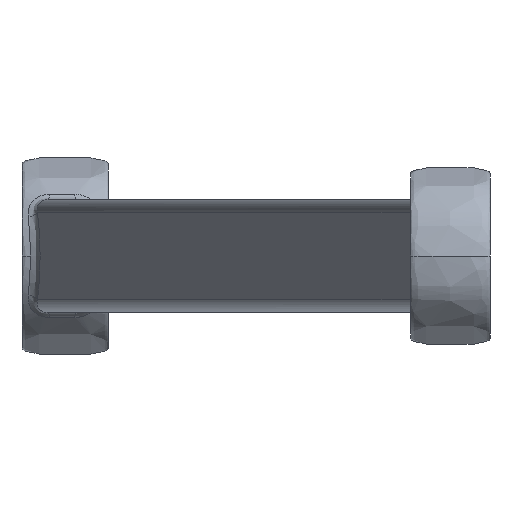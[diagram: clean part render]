
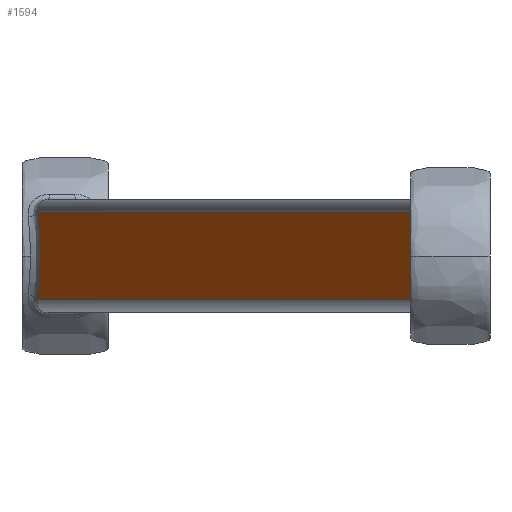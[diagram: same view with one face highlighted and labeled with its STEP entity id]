
A CAD part, left-side view. The second image highlights one B-rep face of the part: STEP entity #1594.
In plain terms, the highlighted planar face has unit normal (-0.259, 0.966, 0).
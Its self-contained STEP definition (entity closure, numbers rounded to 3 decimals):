
#8 = CARTESIAN_POINT ( 'NONE',  ( 28.51, 4.442, 2.26 ) ) ;
#43 = VERTEX_POINT ( 'NONE', #765 ) ;
#55 = CARTESIAN_POINT ( 'NONE',  ( 27.716, 4.229, -5.564 ) ) ;
#188 = CARTESIAN_POINT ( 'NONE',  ( 243.038, 61.925, 1.12 ) ) ;
#261 = ORIENTED_EDGE ( 'NONE', *, *, #516, .T. ) ;
#344 = CARTESIAN_POINT ( 'NONE',  ( 28.657, 4.482, 0.562 ) ) ;
#377 = B_SPLINE_CURVE_WITH_KNOTS ( 'NONE', 3,
 ( #2388, #2176, #1299, #3468, #1855, #502, #1580, #188, #2343, #2057, #3195, #1218, #3138, #2576, #2080, #1788 ),
 .UNSPECIFIED., .F., .F.,
 ( 4, 2, 2, 2, 2, 2, 2, 4 ),
 ( 0., 0.002, 0.003, 0.005, 0.007, 0.009, 0.01, 0.014 ),
 .UNSPECIFIED. ) ;
#411 = DIRECTION ( 'NONE',  ( 0.966, 0.259, 0. ) ) ;
#502 = CARTESIAN_POINT ( 'NONE',  ( 243.254, 61.983, 2.816 ) ) ;
#516 = EDGE_CURVE ( 'NONE', #592, #43, #1526, .T. ) ;
#592 = VERTEX_POINT ( 'NONE', #2833 ) ;
#600 = EDGE_LOOP ( 'NONE', ( #787, #1563, #261, #1178 ) ) ;
#702 = CARTESIAN_POINT ( 'NONE',  ( 27.247, 4.104, 6.6 ) ) ;
#703 = CARTESIAN_POINT ( 'NONE',  ( 244.486, 62.313, -6.6 ) ) ;
#765 = CARTESIAN_POINT ( 'NONE',  ( 244.486, 62.313, 6.6 ) ) ;
#787 = ORIENTED_EDGE ( 'NONE', *, *, #2735, .T. ) ;
#831 = CARTESIAN_POINT ( 'NONE',  ( 28.066, 4.323, 4.491 ) ) ;
#986 = CARTESIAN_POINT ( 'NONE',  ( 271.924, 69.665, -8.55 ) ) ;
#1070 = EDGE_CURVE ( 'NONE', #43, #1702, #377, .T. ) ;
#1100 = CARTESIAN_POINT ( 'NONE',  ( 28.421, 4.418, 2.827 ) ) ;
#1145 = CARTESIAN_POINT ( 'NONE',  ( 28.065, 4.323, -4.493 ) ) ;
#1178 = ORIENTED_EDGE ( 'NONE', *, *, #1070, .T. ) ;
#1218 = CARTESIAN_POINT ( 'NONE',  ( 243.164, 61.959, -2.271 ) ) ;
#1298 = PLANE ( 'NONE',  #2805 ) ;
#1299 = CARTESIAN_POINT ( 'NONE',  ( 244.027, 62.19, 5.559 ) ) ;
#1428 = CARTESIAN_POINT ( 'NONE',  ( 28.628, 4.474, 1.129 ) ) ;
#1526 = LINE ( 'NONE', #2110, #2570 ) ;
#1563 = ORIENTED_EDGE ( 'NONE', *, *, #3207, .T. ) ;
#1578 = DIRECTION ( 'NONE',  ( 0.966, 0.259, 0. ) ) ;
#1580 = CARTESIAN_POINT ( 'NONE',  ( 243.161, 61.958, 2.25 ) ) ;
#1594 = ADVANCED_FACE ( 'NONE', ( #3485 ), #1298, .F. ) ;
#1637 = CARTESIAN_POINT ( 'NONE',  ( 28.508, 4.442, -2.277 ) ) ;
#1702 = VERTEX_POINT ( 'NONE', #703 ) ;
#1788 = CARTESIAN_POINT ( 'NONE',  ( 244.486, 62.313, -6.6 ) ) ;
#1855 = CARTESIAN_POINT ( 'NONE',  ( 243.503, 62.049, 3.932 ) ) ;
#2057 = CARTESIAN_POINT ( 'NONE',  ( 243.008, 61.917, -0.575 ) ) ;
#2080 = CARTESIAN_POINT ( 'NONE',  ( 243.997, 62.182, -5.571 ) ) ;
#2110 = CARTESIAN_POINT ( 'NONE',  ( 271.924, 69.665, 6.6 ) ) ;
#2130 = DIRECTION ( 'NONE',  ( -0.966, -0.259, 0. ) ) ;
#2176 = CARTESIAN_POINT ( 'NONE',  ( 244.241, 62.247, 6.086 ) ) ;
#2343 = CARTESIAN_POINT ( 'NONE',  ( 243.007, 61.917, 0.555 ) ) ;
#2388 = CARTESIAN_POINT ( 'NONE',  ( 244.486, 62.313, 6.6 ) ) ;
#2389 = VERTEX_POINT ( 'NONE', #3024 ) ;
#2395 = CARTESIAN_POINT ( 'NONE',  ( 271.924, 69.665, -6.6 ) ) ;
#2506 = CARTESIAN_POINT ( 'NONE',  ( 27.247, 4.104, -6.6 ) ) ;
#2570 = VECTOR ( 'NONE', #411, 1000. ) ;
#2576 = CARTESIAN_POINT ( 'NONE',  ( 243.631, 62.084, -4.502 ) ) ;
#2659 = DIRECTION ( 'NONE',  ( 0.259, -0.966, 0. ) ) ;
#2735 = EDGE_CURVE ( 'NONE', #1702, #2389, #2872, .T. ) ;
#2791 = CARTESIAN_POINT ( 'NONE',  ( 28.628, 4.474, -1.14 ) ) ;
#2805 = AXIS2_PLACEMENT_3D ( 'NONE', #986, #2659, #1578 ) ;
#2832 = B_SPLINE_CURVE_WITH_KNOTS ( 'NONE', 3,
 ( #2506, #55, #1145, #3053, #1637, #2791, #3335, #344, #1428, #8, #1100, #831, #3374, #702 ),
 .UNSPECIFIED., .F., .F.,
 ( 4, 2, 2, 2, 2, 2, 4 ),
 ( 0., 0.003, 0.005, 0.007, 0.008, 0.01, 0.014 ),
 .UNSPECIFIED. ) ;
#2833 = CARTESIAN_POINT ( 'NONE',  ( 27.247, 4.104, 6.6 ) ) ;
#2861 = VECTOR ( 'NONE', #2130, 1000. ) ;
#2872 = LINE ( 'NONE', #2395, #2861 ) ;
#3024 = CARTESIAN_POINT ( 'NONE',  ( 27.247, 4.104, -6.6 ) ) ;
#3053 = CARTESIAN_POINT ( 'NONE',  ( 28.419, 4.418, -2.837 ) ) ;
#3138 = CARTESIAN_POINT ( 'NONE',  ( 243.258, 61.984, -2.839 ) ) ;
#3195 = CARTESIAN_POINT ( 'NONE',  ( 243.039, 61.925, -1.14 ) ) ;
#3207 = EDGE_CURVE ( 'NONE', #2389, #592, #2832, .T. ) ;
#3335 = CARTESIAN_POINT ( 'NONE',  ( 28.657, 4.482, -0.572 ) ) ;
#3374 = CARTESIAN_POINT ( 'NONE',  ( 27.716, 4.229, 5.564 ) ) ;
#3468 = CARTESIAN_POINT ( 'NONE',  ( 243.658, 62.091, 4.483 ) ) ;
#3485 = FACE_OUTER_BOUND ( 'NONE', #600, .T. ) ;
